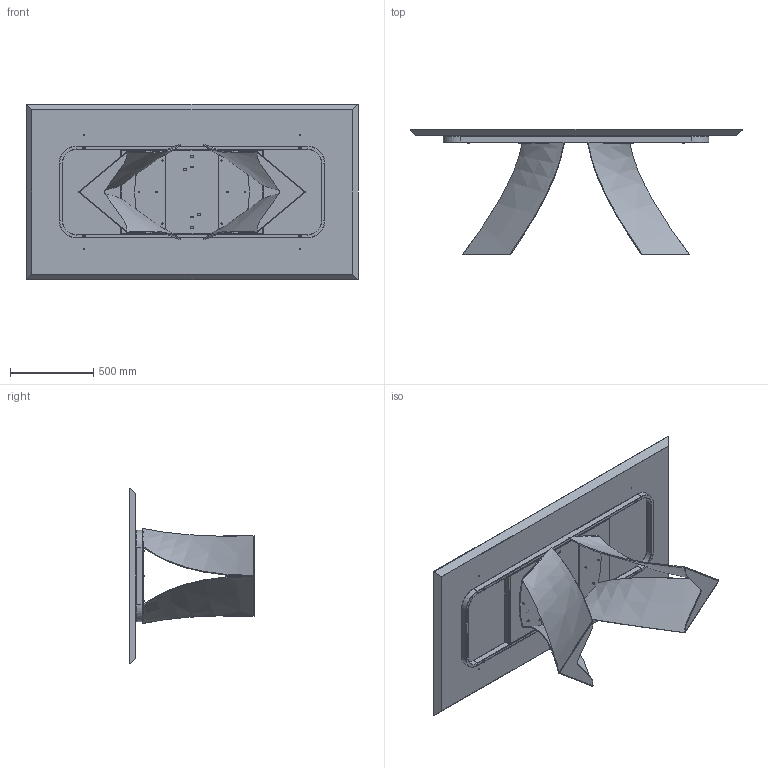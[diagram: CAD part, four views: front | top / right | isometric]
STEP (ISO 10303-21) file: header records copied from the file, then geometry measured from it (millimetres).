
FILE_DESCRIPTION (( 'STEP AP203' ), '1' );
FILE_NAME ('TW21W.STEP', '2024-08-07T12:29:39', ( '' ), ( '' ), 'SwSTEP 2.0', 'SolidWorks 2022', '' );
FILE_SCHEMA (( 'CONFIG_CONTROL_DESIGN' ));
Length unit declared in the file: millimetre
Products named in the file (9): TTAV01_02-01-VASSOIO IRRIGIDIMENTO TELAIO UNIVERSALE; TEALIO TEMP PER MANUALE; M8xXXmm_M8x20mm; rondella M8_8X16; W2XCMXX-00-Piani Rettangolari in legno_2000 x 1060; TWS000000BAS-00-TWIST BASE GREZZA; TW21W; M8xXXmm_M8x55mm; TUBOLARE TELAIO TEMP TWIST_Default<A macchina>
Assembly tree (38 placements, depth 3):
  TW21W
    W2XCMXX-00-Piani Rettangolari in legno_2000 x 1060
    TEALIO TEMP PER MANUALE
      TUBOLARE TELAIO TEMP TWIST_Default<A macchina>
      TTAV01_02-01-VASSOIO IRRIGIDIMENTO TELAIO UNIVERSALE
    TWS000000BAS-00-TWIST BASE GREZZA  x2
    M8xXXmm_M8x55mm  x4
    rondella M8_8X16  x16
    M8xXXmm_M8x20mm  x12
Bounding box: 2000 x 753.37 x 1060 mm (x, y, z)
Volume: 87236731.4 mm3; surface area: 8756141.6 mm2
Topology: 52 solids, 52 shells, 1292 faces, 3032 edges, 1813 vertices
Faces by surface type: plane 472, cylinder 324, torus 224, cone 206, bspline 66
Entity records: 24920 total; most frequent: CARTESIAN_POINT 9420, DIRECTION 2920, ORIENTED_EDGE 2806, EDGE_CURVE 1403, AXIS2_PLACEMENT_3D 1089, VERTEX_POINT 902, LINE 742, VECTOR 742
